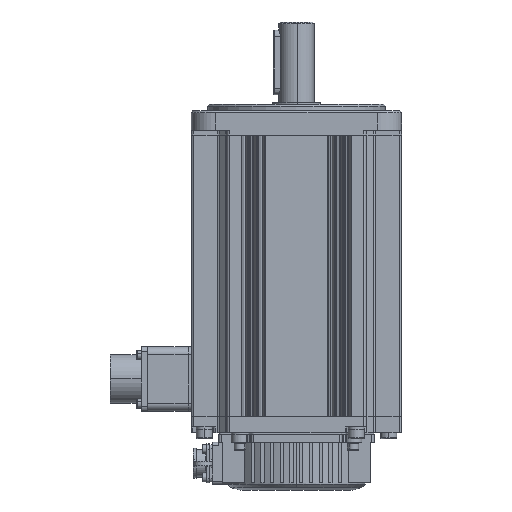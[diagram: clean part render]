
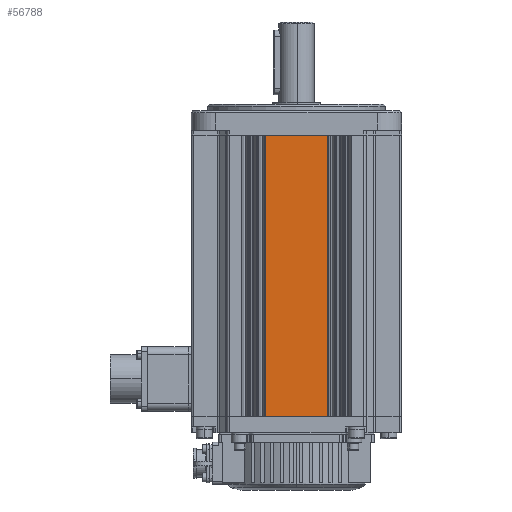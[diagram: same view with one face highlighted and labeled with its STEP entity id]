
A CAD part, front view. The second image highlights one B-rep face of the part: STEP entity #56788.
In plain terms, the highlighted planar face has unit normal (0, -1, 0).
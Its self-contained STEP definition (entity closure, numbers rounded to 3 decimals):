
#384 = CARTESIAN_POINT ( 'NONE',  ( 0., -65., 87. ) ) ;
#3638 = CARTESIAN_POINT ( 'NONE',  ( 19.307, -65., -87. ) ) ;
#7936 = DIRECTION ( 'NONE',  ( 0., 0., 1. ) ) ;
#8603 = ORIENTED_EDGE ( 'NONE', *, *, #33241, .T. ) ;
#9952 = ORIENTED_EDGE ( 'NONE', *, *, #27942, .F. ) ;
#11558 = LINE ( 'NONE', #42572, #41820 ) ;
#13778 = VERTEX_POINT ( 'NONE', #45183 ) ;
#14761 = CARTESIAN_POINT ( 'NONE',  ( 0., -65., -87. ) ) ;
#15006 = EDGE_CURVE ( 'NONE', #35712, #28425, #25931, .T. ) ;
#18340 = LINE ( 'NONE', #384, #54556 ) ;
#22844 = CARTESIAN_POINT ( 'NONE',  ( -19.307, -65., -87. ) ) ;
#24414 = DIRECTION ( 'NONE',  ( 0., 0., 1. ) ) ;
#25931 = LINE ( 'NONE', #41701, #49602 ) ;
#27942 = EDGE_CURVE ( 'NONE', #28425, #13778, #11558, .T. ) ;
#28425 = VERTEX_POINT ( 'NONE', #22844 ) ;
#29912 = LINE ( 'NONE', #35999, #55052 ) ;
#31335 = EDGE_CURVE ( 'NONE', #51204, #13778, #18340, .T. ) ;
#33066 = DIRECTION ( 'NONE',  ( 0., 0., 1. ) ) ;
#33241 = EDGE_CURVE ( 'NONE', #35712, #51204, #29912, .T. ) ;
#33388 = DIRECTION ( 'NONE',  ( -1., 0., 0. ) ) ;
#33391 = AXIS2_PLACEMENT_3D ( 'NONE', #14761, #52742, #24414 ) ;
#35535 = FACE_OUTER_BOUND ( 'NONE', #61004, .T. ) ;
#35712 = VERTEX_POINT ( 'NONE', #3638 ) ;
#35999 = CARTESIAN_POINT ( 'NONE',  ( 19.307, -65., -87. ) ) ;
#40140 = ORIENTED_EDGE ( 'NONE', *, *, #31335, .T. ) ;
#41701 = CARTESIAN_POINT ( 'NONE',  ( 0., -65., -87. ) ) ;
#41820 = VECTOR ( 'NONE', #33066, 1000. ) ;
#42572 = CARTESIAN_POINT ( 'NONE',  ( -19.307, -65., -87. ) ) ;
#45183 = CARTESIAN_POINT ( 'NONE',  ( -19.307, -65., 87. ) ) ;
#46455 = DIRECTION ( 'NONE',  ( -1., 0., 0. ) ) ;
#48003 = PLANE ( 'NONE',  #33391 ) ;
#49602 = VECTOR ( 'NONE', #46455, 1000. ) ;
#51204 = VERTEX_POINT ( 'NONE', #56558 ) ;
#52742 = DIRECTION ( 'NONE',  ( 0., 1., 0. ) ) ;
#54556 = VECTOR ( 'NONE', #33388, 1000. ) ;
#55052 = VECTOR ( 'NONE', #7936, 1000. ) ;
#56558 = CARTESIAN_POINT ( 'NONE',  ( 19.307, -65., 87. ) ) ;
#56788 = ADVANCED_FACE ( 'NONE', ( #35535 ), #48003, .F. ) ;
#57001 = ORIENTED_EDGE ( 'NONE', *, *, #15006, .F. ) ;
#61004 = EDGE_LOOP ( 'NONE', ( #40140, #9952, #57001, #8603 ) ) ;
